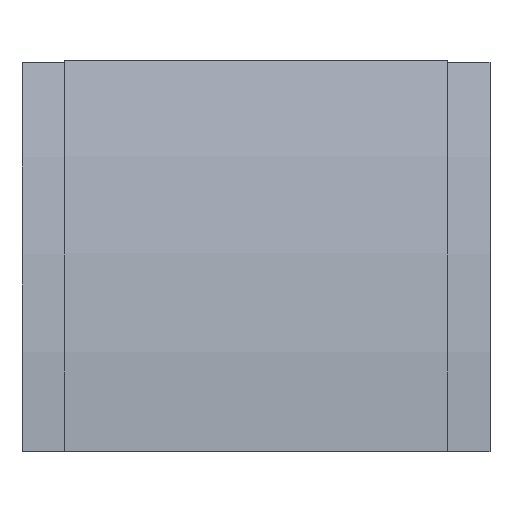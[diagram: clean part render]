
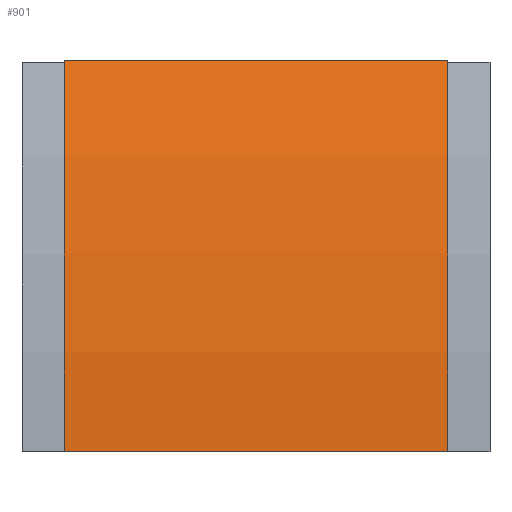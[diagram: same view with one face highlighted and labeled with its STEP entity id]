
A CAD part, front view. The second image highlights one B-rep face of the part: STEP entity #901.
In plain terms, the highlighted cylindrical face has radius 568 mm (diameter 1136 mm), a partial arc.
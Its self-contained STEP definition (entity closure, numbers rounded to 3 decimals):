
#85 = FACE_OUTER_BOUND ( 'NONE', #224, .T. ) ;
#90 = CYLINDRICAL_SURFACE ( 'NONE', #933, 568. ) ;
#161 = EDGE_CURVE ( 'NONE', #421, #428, #480, .T. ) ;
#164 = EDGE_CURVE ( 'NONE', #419, #426, #485, .T. ) ;
#165 = EDGE_CURVE ( 'NONE', #421, #419, #482, .T. ) ;
#166 = EDGE_CURVE ( 'NONE', #428, #426, #488, .T. ) ;
#224 = EDGE_LOOP ( 'NONE', ( #310, #313, #312, #248 ) ) ;
#248 = ORIENTED_EDGE ( 'NONE', *, *, #166, .T. ) ;
#310 = ORIENTED_EDGE ( 'NONE', *, *, #164, .F. ) ;
#312 = ORIENTED_EDGE ( 'NONE', *, *, #161, .T. ) ;
#313 = ORIENTED_EDGE ( 'NONE', *, *, #165, .F. ) ;
#419 = VERTEX_POINT ( 'NONE', #589 ) ;
#421 = VERTEX_POINT ( 'NONE', #590 ) ;
#426 = VERTEX_POINT ( 'NONE', #617 ) ;
#428 = VERTEX_POINT ( 'NONE', #592 ) ;
#480 = CIRCLE ( 'NONE', #996, 568. ) ;
#482 = LINE ( 'NONE', #559, #489 ) ;
#485 = CIRCLE ( 'NONE', #997, 568. ) ;
#488 = LINE ( 'NONE', #508, #491 ) ;
#489 = VECTOR ( 'NONE', #685, 1000. ) ;
#491 = VECTOR ( 'NONE', #550, 1000. ) ;
#508 = CARTESIAN_POINT ( 'NONE',  ( -95.25, -68., 0. ) ) ;
#550 = DIRECTION ( 'NONE',  ( 1., 0., 0. ) ) ;
#551 = DIRECTION ( 'NONE',  ( 0., 0., -1. ) ) ;
#556 = DIRECTION ( 'NONE',  ( 1., 0., 0. ) ) ;
#557 = CARTESIAN_POINT ( 'NONE',  ( -95.25, 500., 0. ) ) ;
#559 = CARTESIAN_POINT ( 'NONE',  ( -95.25, -33.745, 194.267 ) ) ;
#589 = CARTESIAN_POINT ( 'NONE',  ( 95.25, -33.745, 194.267 ) ) ;
#590 = CARTESIAN_POINT ( 'NONE',  ( -95.25, -33.745, 194.267 ) ) ;
#592 = CARTESIAN_POINT ( 'NONE',  ( -95.25, -68., 0. ) ) ;
#617 = CARTESIAN_POINT ( 'NONE',  ( 95.25, -68., 0. ) ) ;
#685 = DIRECTION ( 'NONE',  ( 1., 0., 0. ) ) ;
#713 = CARTESIAN_POINT ( 'NONE',  ( 95.25, 500., 0. ) ) ;
#714 = DIRECTION ( 'NONE',  ( 1., 0., 0. ) ) ;
#715 = DIRECTION ( 'NONE',  ( 0., 0., -1. ) ) ;
#750 = DIRECTION ( 'NONE',  ( 1., 0., 0. ) ) ;
#752 = DIRECTION ( 'NONE',  ( 0., 0., -1. ) ) ;
#755 = CARTESIAN_POINT ( 'NONE',  ( 0., 500., 0. ) ) ;
#901 = ADVANCED_FACE ( 'NONE', ( #85 ), #90, .T. ) ;
#933 = AXIS2_PLACEMENT_3D ( 'NONE', #755, #750, #752 ) ;
#996 = AXIS2_PLACEMENT_3D ( 'NONE', #557, #556, #551 ) ;
#997 = AXIS2_PLACEMENT_3D ( 'NONE', #713, #714, #715 ) ;
